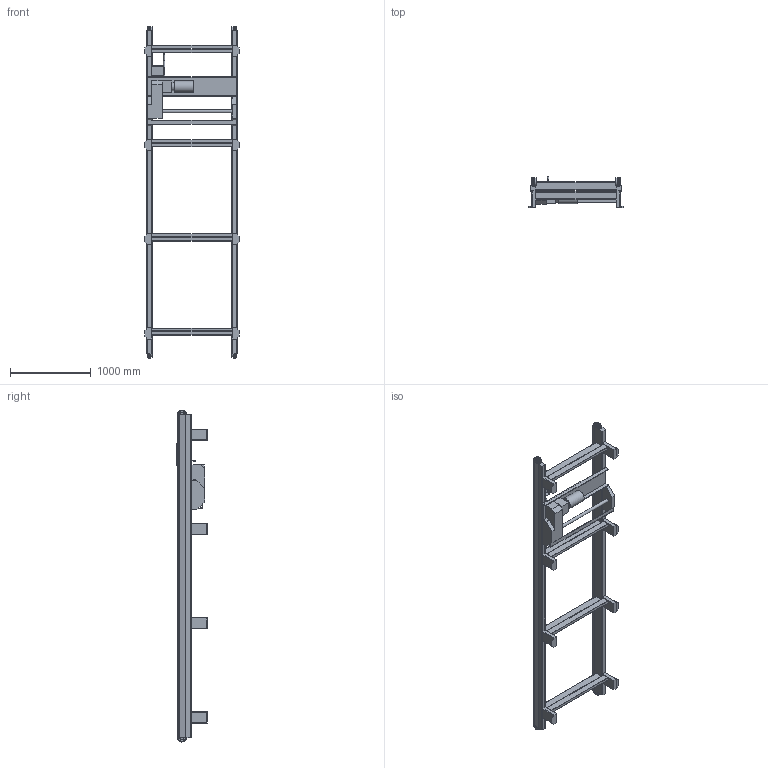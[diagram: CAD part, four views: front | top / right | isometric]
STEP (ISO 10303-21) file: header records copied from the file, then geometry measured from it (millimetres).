
FILE_DESCRIPTION((''),'2;1');
FILE_NAME('C:\Vault_Working_Folder\Designs\Inventor\Lättviktsmodeller\Maxi\IKDS 80-1050-4000.stp','2012-11-12T16:10:21',('martin.samuelsson'),(''),'Autodesk Inventor 2013','Autodesk Inventor 2013','');
FILE_SCHEMA(('AUTOMOTIVE_DESIGN { 1 0 10303 214 1 1 1 1 }'));
Length unit declared in the file: millimetre
Products named in the file (1): IKDS 80-1050-4000
Bounding box: 1170 x 379.99 x 4111 mm (x, y, z)
Volume: 134576182.3 mm3; surface area: 8909759.1 mm2
Topology: 7 solids, 7 shells, 318 faces, 861 edges, 566 vertices
Faces by surface type: plane 246, cylinder 72
Full cylindrical faces by diameter (mm): 20 x3, 40 x1, 100 x1, 145 x1
Entity records: 10085 total; most frequent: CARTESIAN_POINT 1740, ORIENTED_EDGE 1710, DIRECTION 1639, EDGE_CURVE 855, VECTOR 709, LINE 709, VERTEX_POINT 566, AXIS2_PLACEMENT_3D 465
